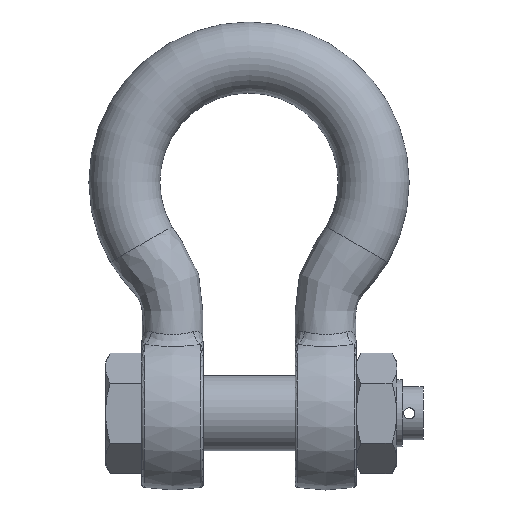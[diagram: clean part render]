
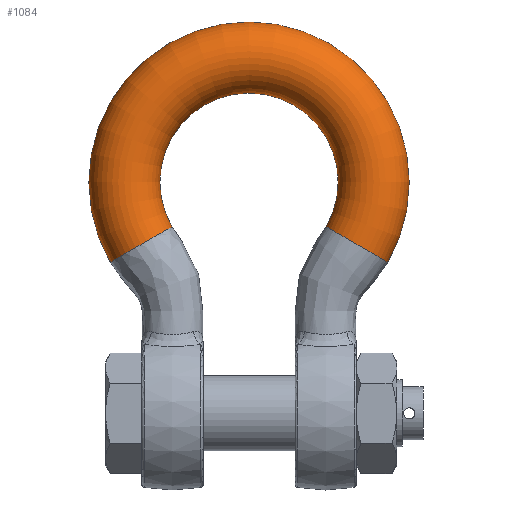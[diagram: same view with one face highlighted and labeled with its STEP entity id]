
A CAD part, top view. The second image highlights one B-rep face of the part: STEP entity #1084.
In plain terms, the highlighted toroidal (fillet/blend) face has major radius 89.5 mm and minor radius 25.5 mm.
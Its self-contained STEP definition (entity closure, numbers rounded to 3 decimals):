
#127=TOROIDAL_SURFACE('',#1235,89.5,25.5);
#195=FACE_OUTER_BOUND('',#268,.T.);
#268=EDGE_LOOP('',(#855,#856,#857,#858,#859,#860));
#410=CIRCLE('',#1236,25.5);
#411=CIRCLE('',#1237,25.5);
#412=CIRCLE('',#1238,64.);
#413=CIRCLE('',#1239,25.5);
#414=CIRCLE('',#1240,25.5);
#491=VERTEX_POINT('',#3257);
#492=VERTEX_POINT('',#3258);
#493=VERTEX_POINT('',#3261);
#494=VERTEX_POINT('',#3263);
#620=EDGE_CURVE('',#491,#492,#410,.T.);
#621=EDGE_CURVE('',#492,#491,#411,.T.);
#622=EDGE_CURVE('',#492,#493,#412,.T.);
#623=EDGE_CURVE('',#493,#494,#413,.T.);
#624=EDGE_CURVE('',#494,#493,#414,.T.);
#855=ORIENTED_EDGE('',*,*,#620,.F.);
#856=ORIENTED_EDGE('',*,*,#621,.F.);
#857=ORIENTED_EDGE('',*,*,#622,.T.);
#858=ORIENTED_EDGE('',*,*,#623,.T.);
#859=ORIENTED_EDGE('',*,*,#624,.T.);
#860=ORIENTED_EDGE('',*,*,#622,.F.);
#1084=ADVANCED_FACE('',(#195),#127,.T.);
#1235=AXIS2_PLACEMENT_3D('',#3256,#1422,#1423);
#1236=AXIS2_PLACEMENT_3D('',#3259,#1424,#1425);
#1237=AXIS2_PLACEMENT_3D('',#3260,#1426,#1427);
#1238=AXIS2_PLACEMENT_3D('',#3262,#1428,#1429);
#1239=AXIS2_PLACEMENT_3D('',#3264,#1430,#1431);
#1240=AXIS2_PLACEMENT_3D('',#3265,#1432,#1433);
#1422=DIRECTION('center_axis',(0.,0.,1.));
#1423=DIRECTION('ref_axis',(0.,1.,0.));
#1424=DIRECTION('center_axis',(0.5,-0.866,0.));
#1425=DIRECTION('ref_axis',(-0.866,-0.5,0.));
#1426=DIRECTION('center_axis',(0.5,-0.866,0.));
#1427=DIRECTION('ref_axis',(-0.866,-0.5,0.));
#1428=DIRECTION('center_axis',(0.,0.,-1.));
#1429=DIRECTION('ref_axis',(0.,1.,0.));
#1430=DIRECTION('center_axis',(0.5,0.866,0.));
#1431=DIRECTION('ref_axis',(0.866,-0.5,0.));
#1432=DIRECTION('center_axis',(0.5,0.866,0.));
#1433=DIRECTION('ref_axis',(0.866,-0.5,0.));
#3256=CARTESIAN_POINT('Origin',(0.,166.,0.));
#3257=CARTESIAN_POINT('',(-99.593,108.5,0.));
#3258=CARTESIAN_POINT('',(-55.426,134.,0.));
#3259=CARTESIAN_POINT('Origin',(-77.509,121.25,0.));
#3260=CARTESIAN_POINT('Origin',(-77.509,121.25,0.));
#3261=CARTESIAN_POINT('',(55.426,134.,0.));
#3262=CARTESIAN_POINT('Origin',(0.,166.,0.));
#3263=CARTESIAN_POINT('',(99.593,108.5,0.));
#3264=CARTESIAN_POINT('Origin',(77.509,121.25,0.));
#3265=CARTESIAN_POINT('Origin',(77.509,121.25,0.));
